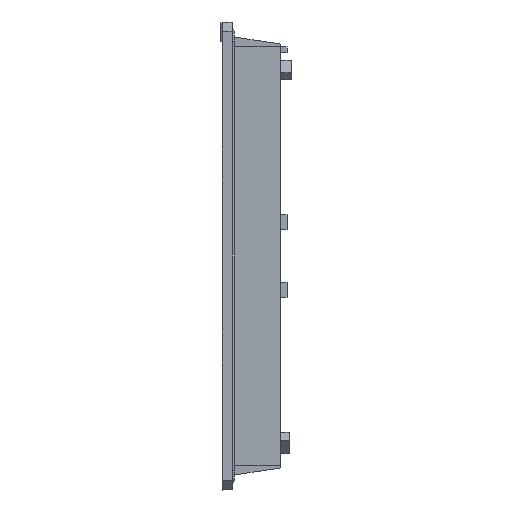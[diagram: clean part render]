
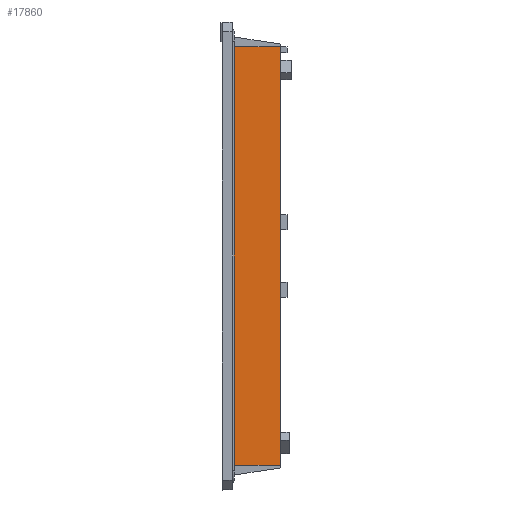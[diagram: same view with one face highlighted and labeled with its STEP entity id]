
A CAD part, left-side view. The second image highlights one B-rep face of the part: STEP entity #17860.
In plain terms, the highlighted planar face has unit normal (-1, 0, 0).
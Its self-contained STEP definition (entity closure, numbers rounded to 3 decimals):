
#1435 = DIRECTION ( 'NONE',  ( 0., -1., 0. ) ) ;
#1537 = EDGE_CURVE ( 'NONE', #35075, #58990, #35500, .T. ) ;
#1645 = DIRECTION ( 'NONE',  ( 0., -1., 0. ) ) ;
#5375 = ORIENTED_EDGE ( 'NONE', *, *, #31562, .F. ) ;
#6484 = VERTEX_POINT ( 'NONE', #21681 ) ;
#9257 = CARTESIAN_POINT ( 'NONE',  ( -144.5, 477.063, 144.5 ) ) ;
#10103 = AXIS2_PLACEMENT_3D ( 'NONE', #9257, #45629, #18371 ) ;
#12556 = CARTESIAN_POINT ( 'NONE',  ( -144.5, -3., 144.5 ) ) ;
#14851 = CARTESIAN_POINT ( 'NONE',  ( -144.5, -3., -143. ) ) ;
#16762 = VERTEX_POINT ( 'NONE', #48866 ) ;
#17860 = ADVANCED_FACE ( 'NONE', ( #50958 ), #22763, .T. ) ;
#18371 = DIRECTION ( 'NONE',  ( 0., 0., 1. ) ) ;
#21681 = CARTESIAN_POINT ( 'NONE',  ( -144.5, 30.5, -143. ) ) ;
#22763 = PLANE ( 'NONE',  #10103 ) ;
#22936 = ORIENTED_EDGE ( 'NONE', *, *, #48709, .T. ) ;
#22968 = EDGE_CURVE ( 'NONE', #16762, #35075, #32319, .T. ) ;
#28673 = CARTESIAN_POINT ( 'NONE',  ( -144.5, 54.363, -143. ) ) ;
#30578 = EDGE_LOOP ( 'NONE', ( #39010, #38264, #5375, #22936 ) ) ;
#31562 = EDGE_CURVE ( 'NONE', #6484, #16762, #38815, .T. ) ;
#32319 = LINE ( 'NONE', #33447, #41606 ) ;
#33447 = CARTESIAN_POINT ( 'NONE',  ( -144.5, 54.363, 143. ) ) ;
#35075 = VERTEX_POINT ( 'NONE', #45797 ) ;
#35500 = LINE ( 'NONE', #12556, #58210 ) ;
#36433 = LINE ( 'NONE', #28673, #37848 ) ;
#37396 = VECTOR ( 'NONE', #54135, 1000. ) ;
#37848 = VECTOR ( 'NONE', #1435, 1000. ) ;
#38264 = ORIENTED_EDGE ( 'NONE', *, *, #22968, .F. ) ;
#38815 = LINE ( 'NONE', #49551, #37396 ) ;
#39010 = ORIENTED_EDGE ( 'NONE', *, *, #1537, .F. ) ;
#39794 = DIRECTION ( 'NONE',  ( 0., 0., -1. ) ) ;
#41606 = VECTOR ( 'NONE', #1645, 1000. ) ;
#45629 = DIRECTION ( 'NONE',  ( -1., 0., 0. ) ) ;
#45797 = CARTESIAN_POINT ( 'NONE',  ( -144.5, -3., 143. ) ) ;
#48709 = EDGE_CURVE ( 'NONE', #6484, #58990, #36433, .T. ) ;
#48866 = CARTESIAN_POINT ( 'NONE',  ( -144.5, 30.5, 143. ) ) ;
#49551 = CARTESIAN_POINT ( 'NONE',  ( -144.5, 30.5, 144.5 ) ) ;
#50958 = FACE_OUTER_BOUND ( 'NONE', #30578, .T. ) ;
#54135 = DIRECTION ( 'NONE',  ( 0., 0., 1. ) ) ;
#58210 = VECTOR ( 'NONE', #39794, 1000. ) ;
#58990 = VERTEX_POINT ( 'NONE', #14851 ) ;
